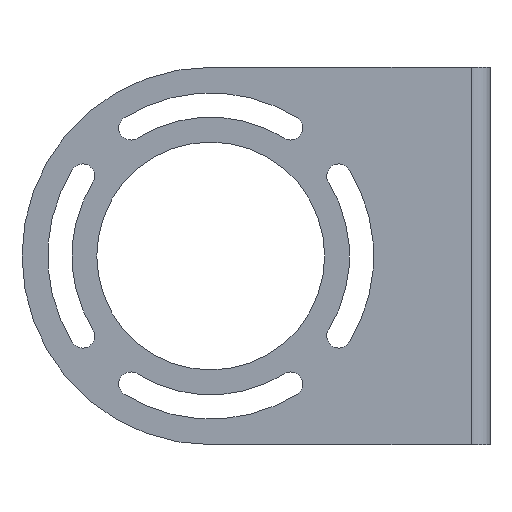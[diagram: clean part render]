
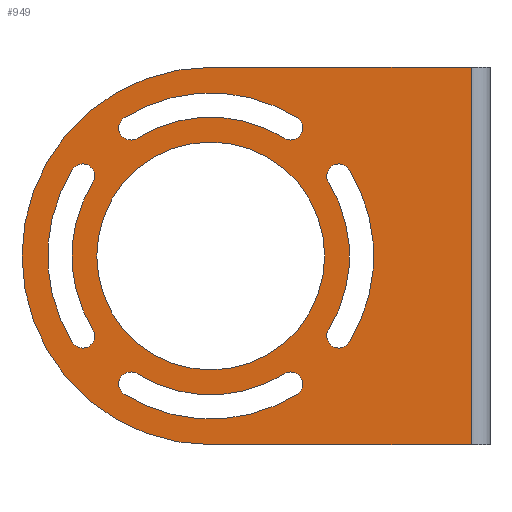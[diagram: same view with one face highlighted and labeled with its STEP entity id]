
A CAD part, left-side view. The second image highlights one B-rep face of the part: STEP entity #949.
In plain terms, the highlighted planar face has unit normal (-1, 0, 0).
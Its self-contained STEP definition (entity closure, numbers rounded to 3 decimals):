
#26=DIRECTION('',(0.,-1.,0.));
#27=VECTOR('',#26,34.5);
#28=CARTESIAN_POINT('',(-2.,35.,-25.));
#29=LINE('',#28,#27);
#30=DIRECTION('',(0.,0.,-1.));
#31=VECTOR('',#30,50.);
#32=CARTESIAN_POINT('',(-2.,0.5,25.));
#33=LINE('',#32,#31);
#34=CARTESIAN_POINT('',(-2.,35.,0.));
#35=DIRECTION('',(1.,0.,0.));
#36=DIRECTION('',(0.,0.,-1.));
#37=AXIS2_PLACEMENT_3D('',#34,#35,#36);
#39=CARTESIAN_POINT('',(-2.,35.,0.));
#40=DIRECTION('',(1.,0.,0.));
#41=DIRECTION('',(0.,0.,-1.));
#42=AXIS2_PLACEMENT_3D('',#39,#40,#41);
#44=CARTESIAN_POINT('',(-2.,35.,0.));
#45=DIRECTION('',(1.,0.,0.));
#46=DIRECTION('',(0.,0.,1.));
#47=AXIS2_PLACEMENT_3D('',#44,#45,#46);
#49=CARTESIAN_POINT('',(-2.,35.,0.));
#50=DIRECTION('',(1.,0.,0.));
#51=DIRECTION('',(0.,0.848,-0.53));
#52=AXIS2_PLACEMENT_3D('',#49,#50,#51);
#54=CARTESIAN_POINT('',(-2.,51.961,-10.598));
#55=DIRECTION('',(1.,0.,0.));
#56=DIRECTION('',(0.,-0.848,0.53));
#57=AXIS2_PLACEMENT_3D('',#54,#55,#56);
#59=CARTESIAN_POINT('',(-2.,35.,0.));
#60=DIRECTION('',(1.,0.,0.));
#61=DIRECTION('',(0.,0.848,-0.53));
#62=AXIS2_PLACEMENT_3D('',#59,#60,#61);
#64=CARTESIAN_POINT('',(-2.,51.961,10.598));
#65=DIRECTION('',(1.,0.,0.));
#66=DIRECTION('',(0.,0.848,0.53));
#67=AXIS2_PLACEMENT_3D('',#64,#65,#66);
#69=CARTESIAN_POINT('',(-2.,35.,0.));
#70=DIRECTION('',(1.,0.,0.));
#71=DIRECTION('',(0.,0.53,0.848));
#72=AXIS2_PLACEMENT_3D('',#69,#70,#71);
#74=CARTESIAN_POINT('',(-2.,45.598,16.961));
#75=DIRECTION('',(1.,0.,0.));
#76=DIRECTION('',(0.,-0.53,-0.848));
#77=AXIS2_PLACEMENT_3D('',#74,#75,#76);
#79=CARTESIAN_POINT('',(-2.,35.,0.));
#80=DIRECTION('',(1.,0.,0.));
#81=DIRECTION('',(0.,0.53,0.848));
#82=AXIS2_PLACEMENT_3D('',#79,#80,#81);
#84=CARTESIAN_POINT('',(-2.,24.402,16.961));
#85=DIRECTION('',(1.,0.,0.));
#86=DIRECTION('',(0.,-0.53,0.848));
#87=AXIS2_PLACEMENT_3D('',#84,#85,#86);
#89=CARTESIAN_POINT('',(-2.,35.,0.));
#90=DIRECTION('',(1.,0.,0.));
#91=DIRECTION('',(0.,-0.848,0.53));
#92=AXIS2_PLACEMENT_3D('',#89,#90,#91);
#94=CARTESIAN_POINT('',(-2.,18.039,10.598));
#95=DIRECTION('',(1.,0.,0.));
#96=DIRECTION('',(0.,0.848,-0.53));
#97=AXIS2_PLACEMENT_3D('',#94,#95,#96);
#99=CARTESIAN_POINT('',(-2.,35.,0.));
#100=DIRECTION('',(1.,0.,0.));
#101=DIRECTION('',(0.,-0.848,0.53));
#102=AXIS2_PLACEMENT_3D('',#99,#100,#101);
#104=CARTESIAN_POINT('',(-2.,18.039,-10.598));
#105=DIRECTION('',(1.,0.,0.));
#106=DIRECTION('',(0.,-0.848,-0.53));
#107=AXIS2_PLACEMENT_3D('',#104,#105,#106);
#109=CARTESIAN_POINT('',(-2.,35.,0.));
#110=DIRECTION('',(1.,0.,0.));
#111=DIRECTION('',(0.,-0.53,-0.848));
#112=AXIS2_PLACEMENT_3D('',#109,#110,#111);
#114=CARTESIAN_POINT('',(-2.,24.402,-16.961));
#115=DIRECTION('',(1.,0.,0.));
#116=DIRECTION('',(0.,0.53,0.848));
#117=AXIS2_PLACEMENT_3D('',#114,#115,#116);
#119=CARTESIAN_POINT('',(-2.,35.,0.));
#120=DIRECTION('',(1.,0.,0.));
#121=DIRECTION('',(0.,-0.53,-0.848));
#122=AXIS2_PLACEMENT_3D('',#119,#120,#121);
#124=CARTESIAN_POINT('',(-2.,45.598,-16.961));
#125=DIRECTION('',(1.,0.,0.));
#126=DIRECTION('',(0.,0.53,-0.848));
#127=AXIS2_PLACEMENT_3D('',#124,#125,#126);
#471=DIRECTION('',(0.,-1.,0.));
#472=VECTOR('',#471,34.5);
#473=CARTESIAN_POINT('',(-2.,35.,25.));
#474=LINE('',#473,#472);
#659=CARTESIAN_POINT('',(-2.,35.,-25.));
#660=CARTESIAN_POINT('',(-2.,35.,25.));
#661=VERTEX_POINT('',#659);
#662=VERTEX_POINT('',#660);
#692=CARTESIAN_POINT('',(-2.,0.5,-25.));
#694=VERTEX_POINT('',#692);
#695=CARTESIAN_POINT('',(-2.,0.5,25.));
#696=VERTEX_POINT('',#695);
#699=CARTESIAN_POINT('',(-2.,35.,-15.1));
#700=CARTESIAN_POINT('',(-2.,35.,15.1));
#701=VERTEX_POINT('',#699);
#702=VERTEX_POINT('',#700);
#707=CARTESIAN_POINT('',(-2.,53.318,-11.446));
#708=CARTESIAN_POINT('',(-2.,53.318,11.446));
#709=VERTEX_POINT('',#707);
#710=VERTEX_POINT('',#708);
#711=CARTESIAN_POINT('',(-2.,50.604,9.751));
#712=VERTEX_POINT('',#711);
#713=CARTESIAN_POINT('',(-2.,50.604,-9.751));
#714=VERTEX_POINT('',#713);
#723=CARTESIAN_POINT('',(-2.,46.446,18.318));
#724=CARTESIAN_POINT('',(-2.,23.554,18.318));
#725=VERTEX_POINT('',#723);
#726=VERTEX_POINT('',#724);
#727=CARTESIAN_POINT('',(-2.,25.249,15.604));
#728=VERTEX_POINT('',#727);
#729=CARTESIAN_POINT('',(-2.,44.751,15.604));
#730=VERTEX_POINT('',#729);
#739=CARTESIAN_POINT('',(-2.,16.682,11.446));
#740=CARTESIAN_POINT('',(-2.,16.682,-11.446));
#741=VERTEX_POINT('',#739);
#742=VERTEX_POINT('',#740);
#743=CARTESIAN_POINT('',(-2.,19.396,-9.751));
#744=VERTEX_POINT('',#743);
#745=CARTESIAN_POINT('',(-2.,19.396,9.751));
#746=VERTEX_POINT('',#745);
#755=CARTESIAN_POINT('',(-2.,23.554,-18.318));
#756=CARTESIAN_POINT('',(-2.,46.446,-18.318));
#757=VERTEX_POINT('',#755);
#758=VERTEX_POINT('',#756);
#759=CARTESIAN_POINT('',(-2.,44.751,-15.604));
#760=VERTEX_POINT('',#759);
#761=CARTESIAN_POINT('',(-2.,25.249,-15.604));
#762=VERTEX_POINT('',#761);
#890=CARTESIAN_POINT('',(-2.,60.,-25.));
#891=DIRECTION('',(-1.,0.,0.));
#892=DIRECTION('',(0.,-1.,0.));
#893=AXIS2_PLACEMENT_3D('',#890,#891,#892);
#894=PLANE('',#893);
#895=ORIENTED_EDGE('',*,*,#881,.T.);
#896=ORIENTED_EDGE('',*,*,#870,.F.);
#898=ORIENTED_EDGE('',*,*,#897,.T.);
#900=ORIENTED_EDGE('',*,*,#899,.T.);
#901=EDGE_LOOP('',(#895,#896,#898,#900));
#902=FACE_OUTER_BOUND('',#901,.F.);
#904=ORIENTED_EDGE('',*,*,#903,.F.);
#906=ORIENTED_EDGE('',*,*,#905,.F.);
#907=EDGE_LOOP('',(#904,#906));
#908=FACE_BOUND('',#907,.F.);
#910=ORIENTED_EDGE('',*,*,#909,.F.);
#912=ORIENTED_EDGE('',*,*,#911,.F.);
#914=ORIENTED_EDGE('',*,*,#913,.T.);
#916=ORIENTED_EDGE('',*,*,#915,.F.);
#917=EDGE_LOOP('',(#910,#912,#914,#916));
#918=FACE_BOUND('',#917,.F.);
#920=ORIENTED_EDGE('',*,*,#919,.F.);
#922=ORIENTED_EDGE('',*,*,#921,.F.);
#924=ORIENTED_EDGE('',*,*,#923,.T.);
#926=ORIENTED_EDGE('',*,*,#925,.F.);
#927=EDGE_LOOP('',(#920,#922,#924,#926));
#928=FACE_BOUND('',#927,.F.);
#930=ORIENTED_EDGE('',*,*,#929,.F.);
#932=ORIENTED_EDGE('',*,*,#931,.F.);
#934=ORIENTED_EDGE('',*,*,#933,.T.);
#936=ORIENTED_EDGE('',*,*,#935,.F.);
#937=EDGE_LOOP('',(#930,#932,#934,#936));
#938=FACE_BOUND('',#937,.F.);
#940=ORIENTED_EDGE('',*,*,#939,.F.);
#942=ORIENTED_EDGE('',*,*,#941,.F.);
#944=ORIENTED_EDGE('',*,*,#943,.T.);
#946=ORIENTED_EDGE('',*,*,#945,.F.);
#947=EDGE_LOOP('',(#940,#942,#944,#946));
#948=FACE_BOUND('',#947,.F.);
#949=ADVANCED_FACE('',(#902,#908,#918,#928,#938,#948),#894,.T.);
#38=CIRCLE('',#37,25.);
#43=CIRCLE('',#42,15.1);
#48=CIRCLE('',#47,15.1);
#53=CIRCLE('',#52,21.6);
#58=CIRCLE('',#57,1.6);
#63=CIRCLE('',#62,18.4);
#68=CIRCLE('',#67,1.6);
#73=CIRCLE('',#72,21.6);
#78=CIRCLE('',#77,1.6);
#83=CIRCLE('',#82,18.4);
#88=CIRCLE('',#87,1.6);
#93=CIRCLE('',#92,21.6);
#98=CIRCLE('',#97,1.6);
#103=CIRCLE('',#102,18.4);
#108=CIRCLE('',#107,1.6);
#113=CIRCLE('',#112,21.6);
#118=CIRCLE('',#117,1.6);
#123=CIRCLE('',#122,18.4);
#128=CIRCLE('',#127,1.6);
#870=EDGE_CURVE('',#661,#694,#29,.T.);
#881=EDGE_CURVE('',#696,#694,#33,.T.);
#897=EDGE_CURVE('',#661,#662,#38,.T.);
#899=EDGE_CURVE('',#662,#696,#474,.T.);
#903=EDGE_CURVE('',#701,#702,#43,.T.);
#905=EDGE_CURVE('',#702,#701,#48,.T.);
#909=EDGE_CURVE('',#709,#710,#53,.T.);
#911=EDGE_CURVE('',#714,#709,#58,.T.);
#913=EDGE_CURVE('',#714,#712,#63,.T.);
#915=EDGE_CURVE('',#710,#712,#68,.T.);
#919=EDGE_CURVE('',#725,#726,#73,.T.);
#921=EDGE_CURVE('',#730,#725,#78,.T.);
#923=EDGE_CURVE('',#730,#728,#83,.T.);
#925=EDGE_CURVE('',#726,#728,#88,.T.);
#929=EDGE_CURVE('',#741,#742,#93,.T.);
#931=EDGE_CURVE('',#746,#741,#98,.T.);
#933=EDGE_CURVE('',#746,#744,#103,.T.);
#935=EDGE_CURVE('',#742,#744,#108,.T.);
#939=EDGE_CURVE('',#757,#758,#113,.T.);
#941=EDGE_CURVE('',#762,#757,#118,.T.);
#943=EDGE_CURVE('',#762,#760,#123,.T.);
#945=EDGE_CURVE('',#758,#760,#128,.T.);
